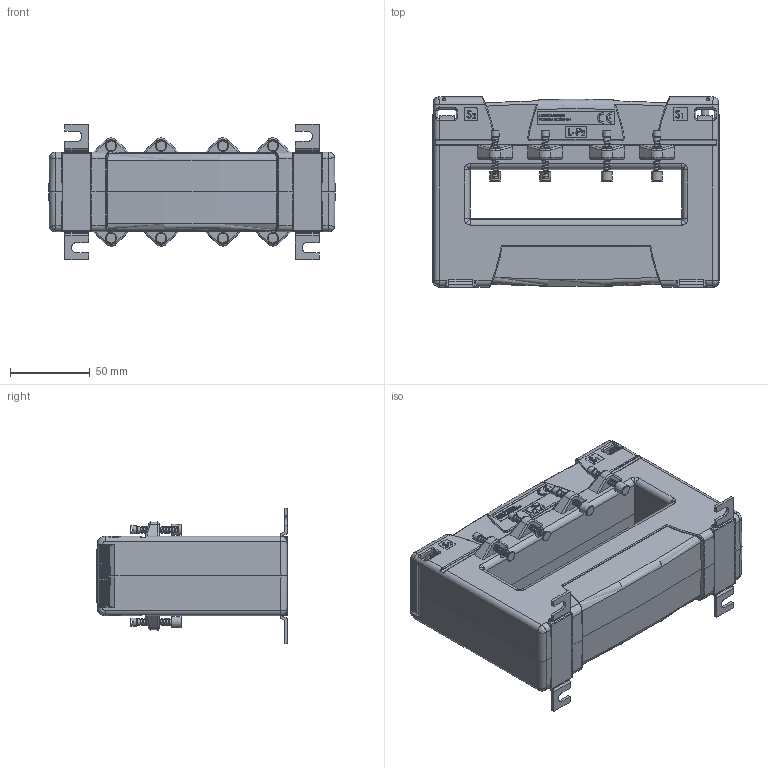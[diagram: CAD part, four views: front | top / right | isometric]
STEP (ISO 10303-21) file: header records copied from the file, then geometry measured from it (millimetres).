
FILE_DESCRIPTION(/* description */ (''),/* implementation_level */ '2;1');
FILE_NAME(/* name */ 'ASK130.5.stp',/* time_stamp */ '2024-03-04T15:05:52+01:00',/* author */ ('JDI'),/* organization */ (''),/* preprocessor_version */ 'ST-DEVELOPER v19.2',/* originating_system */ 'Autodesk Inventor 2023',/* authorisation */ '');
FILE_SCHEMA (('AUTOMOTIVE_DESIGN { 1 0 10303 214 3 1 1 }'));
Products named in the file (1): ASK130.5
Bounding box: 180 x 120.05 x 85 mm (x, y, z)
Volume: 819777.2 mm3; surface area: 99938.5 mm2
Topology: 1 solids, 1 shells, 2351 faces, 6399 edges, 4123 vertices
Faces by surface type: plane 1151, cylinder 586, bspline 474, cone 74, torus 57, sphere 9
Full cylindrical faces by diameter (mm): 1.5 x4, 3 x106, 3.75 x24, 3.8 x16, 4 x48, 4.1 x8, 4.2 x4, 5 x9, 5.8 x8, 10 x1
Entity records: 124876 total; most frequent: CARTESIAN_POINT 67225, ORIENTED_EDGE 12770, DIRECTION 9545, EDGE_CURVE 6385, VERTEX_POINT 4123, LINE 3767, VECTOR 3767, AXIS2_PLACEMENT_3D 2889
